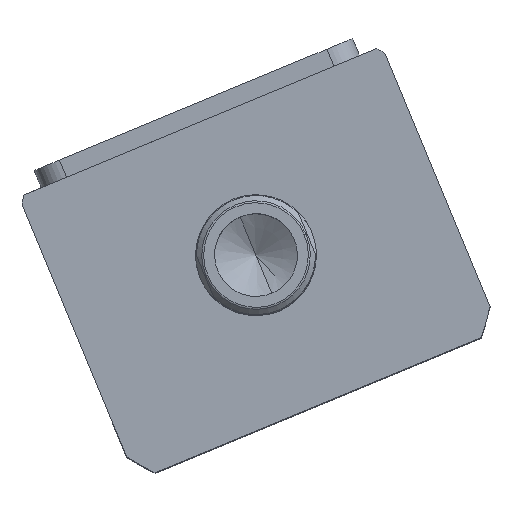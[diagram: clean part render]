
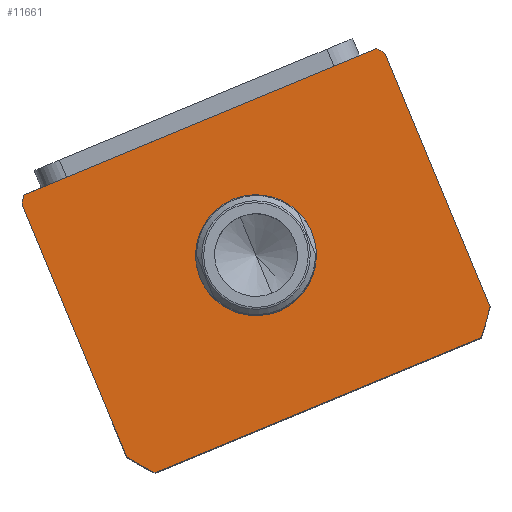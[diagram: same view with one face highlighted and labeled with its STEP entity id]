
A CAD part, top view. The second image highlights one B-rep face of the part: STEP entity #11661.
In plain terms, the highlighted planar face has unit normal (0, 0, 1) as drawn and (0, 0, -1) by its records, which use the part's own axes.
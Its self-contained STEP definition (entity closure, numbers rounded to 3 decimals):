
#36 = VERTEX_POINT ( 'NONE', #11376 ) ;
#590 = AXIS2_PLACEMENT_3D ( 'NONE', #13709, #5046, #15174 ) ;
#902 = VECTOR ( 'NONE', #18763, 1000. ) ;
#954 = ORIENTED_EDGE ( 'NONE', *, *, #14951, .F. ) ;
#1040 = CARTESIAN_POINT ( 'NONE',  ( 51.198, -106.497, 0. ) ) ;
#1171 = VERTEX_POINT ( 'NONE', #13079 ) ;
#1230 = EDGE_CURVE ( 'NONE', #4123, #36, #5693, .T. ) ;
#1887 = CARTESIAN_POINT ( 'NONE',  ( 0., -59.497, 0. ) ) ;
#1904 = CARTESIAN_POINT ( 'NONE',  ( 0., -59.497, 0. ) ) ;
#2020 = CARTESIAN_POINT ( 'NONE',  ( 0., 0., 0. ) ) ;
#2180 = DIRECTION ( 'NONE',  ( 0., 0., 1. ) ) ;
#2435 = AXIS2_PLACEMENT_3D ( 'NONE', #8605, #18714, #10059 ) ;
#2621 = DIRECTION ( 'NONE',  ( 0., 0., 1. ) ) ;
#3238 = DIRECTION ( 'NONE',  ( -1., 0., 0. ) ) ;
#3251 = CIRCLE ( 'NONE', #17096, 17.5 ) ;
#3372 = DIRECTION ( 'NONE',  ( 1., 0., 0. ) ) ;
#3503 = PLANE ( 'NONE',  #18752 ) ;
#3526 = VECTOR ( 'NONE', #18321, 1000. ) ;
#3687 = EDGE_LOOP ( 'NONE', ( #7309, #15448 ) ) ;
#3701 = VERTEX_POINT ( 'NONE', #4584 ) ;
#3822 = EDGE_CURVE ( 'NONE', #16171, #3701, #8845, .T. ) ;
#3854 = DIRECTION ( 'NONE',  ( 0., 1., 0. ) ) ;
#3929 = EDGE_CURVE ( 'NONE', #7575, #16171, #11793, .T. ) ;
#4123 = VERTEX_POINT ( 'NONE', #9114 ) ;
#4144 = ORIENTED_EDGE ( 'NONE', *, *, #7566, .F. ) ;
#4427 = VERTEX_POINT ( 'NONE', #17826 ) ;
#4549 = VECTOR ( 'NONE', #3238, 1000. ) ;
#4584 = CARTESIAN_POINT ( 'NONE',  ( -55.374, -17.497, 0. ) ) ;
#4716 = FACE_BOUND ( 'NONE', #3687, .T. ) ;
#4954 = DIRECTION ( 'NONE',  ( 0., 0., 1. ) ) ;
#5046 = DIRECTION ( 'NONE',  ( 0., 0., 1. ) ) ;
#5225 = CARTESIAN_POINT ( 'NONE',  ( 55.374, -17.497, 0. ) ) ;
#5693 = LINE ( 'NONE', #17438, #902 ) ;
#6225 = EDGE_CURVE ( 'NONE', #10159, #7575, #8580, .T. ) ;
#6404 = VERTEX_POINT ( 'NONE', #1040 ) ;
#7309 = ORIENTED_EDGE ( 'NONE', *, *, #15325, .T. ) ;
#7566 = EDGE_CURVE ( 'NONE', #36, #1171, #18100, .T. ) ;
#7575 = VERTEX_POINT ( 'NONE', #14364 ) ;
#8078 = CARTESIAN_POINT ( 'NONE',  ( 0., -59.497, 0. ) ) ;
#8100 = CARTESIAN_POINT ( 'NONE',  ( 57., -17.497, 0. ) ) ;
#8299 = VERTEX_POINT ( 'NONE', #13626 ) ;
#8438 = EDGE_LOOP ( 'NONE', ( #16338, #9561, #17701, #10926, #4144, #12286, #954, #9134 ) ) ;
#8529 = EDGE_CURVE ( 'NONE', #8299, #4427, #9729, .T. ) ;
#8550 = CIRCLE ( 'NONE', #11990, 69.5 ) ;
#8580 = LINE ( 'NONE', #8100, #15821 ) ;
#8605 = CARTESIAN_POINT ( 'NONE',  ( 0., -59.497, 0. ) ) ;
#8845 = LINE ( 'NONE', #16143, #4549 ) ;
#9010 = FACE_OUTER_BOUND ( 'NONE', #8438, .T. ) ;
#9114 = CARTESIAN_POINT ( 'NONE',  ( -57., -19.732, 0. ) ) ;
#9134 = ORIENTED_EDGE ( 'NONE', *, *, #3822, .F. ) ;
#9511 = DIRECTION ( 'NONE',  ( 1., 0., 0. ) ) ;
#9561 = ORIENTED_EDGE ( 'NONE', *, *, #6225, .F. ) ;
#9729 = CIRCLE ( 'NONE', #17652, 17.5 ) ;
#10059 = DIRECTION ( 'NONE',  ( 1., 0., 0. ) ) ;
#10159 = VERTEX_POINT ( 'NONE', #18093 ) ;
#10926 = ORIENTED_EDGE ( 'NONE', *, *, #12894, .F. ) ;
#11302 = CARTESIAN_POINT ( 'NONE',  ( 0., -59.497, 0. ) ) ;
#11376 = CARTESIAN_POINT ( 'NONE',  ( -57., -99.262, 0. ) ) ;
#11572 = EDGE_CURVE ( 'NONE', #6404, #10159, #8550, .T. ) ;
#11661 = ADVANCED_FACE ( 'NONE', ( #4716, #9010 ), #3503, .F. ) ;
#11793 = CIRCLE ( 'NONE', #17823, 69.5 ) ;
#11990 = AXIS2_PLACEMENT_3D ( 'NONE', #1904, #12045, #3372 ) ;
#12045 = DIRECTION ( 'NONE',  ( 0., 0., 1. ) ) ;
#12286 = ORIENTED_EDGE ( 'NONE', *, *, #1230, .F. ) ;
#12754 = DIRECTION ( 'NONE',  ( 1., 0., 0. ) ) ;
#12894 = EDGE_CURVE ( 'NONE', #1171, #6404, #15079, .T. ) ;
#13079 = CARTESIAN_POINT ( 'NONE',  ( -51.198, -106.497, 0. ) ) ;
#13626 = CARTESIAN_POINT ( 'NONE',  ( -17.5, -59.497, 0. ) ) ;
#13709 = CARTESIAN_POINT ( 'NONE',  ( 0., -59.497, 0. ) ) ;
#14364 = CARTESIAN_POINT ( 'NONE',  ( 57., -19.732, 0. ) ) ;
#14951 = EDGE_CURVE ( 'NONE', #3701, #4123, #17044, .T. ) ;
#15079 = LINE ( 'NONE', #16866, #3526 ) ;
#15088 = DIRECTION ( 'NONE',  ( 1., 0., 0. ) ) ;
#15174 = DIRECTION ( 'NONE',  ( 1., 0., 0. ) ) ;
#15325 = EDGE_CURVE ( 'NONE', #4427, #8299, #3251, .T. ) ;
#15448 = ORIENTED_EDGE ( 'NONE', *, *, #8529, .T. ) ;
#15821 = VECTOR ( 'NONE', #3854, 1000. ) ;
#16143 = CARTESIAN_POINT ( 'NONE',  ( -57., -17.497, 0. ) ) ;
#16171 = VERTEX_POINT ( 'NONE', #5225 ) ;
#16338 = ORIENTED_EDGE ( 'NONE', *, *, #3929, .F. ) ;
#16506 = DIRECTION ( 'NONE',  ( 1., 0., 0. ) ) ;
#16866 = CARTESIAN_POINT ( 'NONE',  ( -57., -106.497, 0. ) ) ;
#17044 = CIRCLE ( 'NONE', #590, 69.5 ) ;
#17096 = AXIS2_PLACEMENT_3D ( 'NONE', #11302, #2621, #12754 ) ;
#17438 = CARTESIAN_POINT ( 'NONE',  ( -57., -17.497, 0. ) ) ;
#17652 = AXIS2_PLACEMENT_3D ( 'NONE', #8078, #18174, #9511 ) ;
#17701 = ORIENTED_EDGE ( 'NONE', *, *, #11572, .F. ) ;
#17823 = AXIS2_PLACEMENT_3D ( 'NONE', #1887, #2180, #16506 ) ;
#17826 = CARTESIAN_POINT ( 'NONE',  ( 17.5, -59.497, 0. ) ) ;
#18093 = CARTESIAN_POINT ( 'NONE',  ( 57., -99.262, 0. ) ) ;
#18100 = CIRCLE ( 'NONE', #2435, 69.5 ) ;
#18174 = DIRECTION ( 'NONE',  ( 0., 0., 1. ) ) ;
#18321 = DIRECTION ( 'NONE',  ( 1., 0., 0. ) ) ;
#18714 = DIRECTION ( 'NONE',  ( 0., 0., 1. ) ) ;
#18752 = AXIS2_PLACEMENT_3D ( 'NONE', #2020, #4954, #15088 ) ;
#18763 = DIRECTION ( 'NONE',  ( 0., -1., 0. ) ) ;
